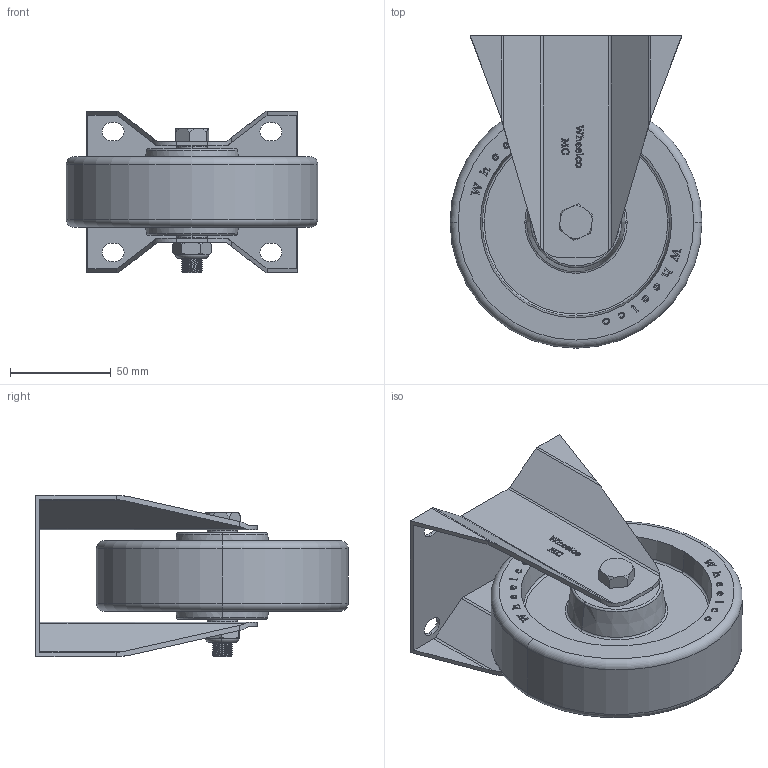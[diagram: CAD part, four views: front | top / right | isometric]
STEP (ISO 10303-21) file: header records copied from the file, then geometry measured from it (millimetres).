
FILE_DESCRIPTION (( 'STEP AP214' ), '1' );
FILE_NAME ('MCU125-F.step', '2023-11-29T20:28:37', ( '' ), ( '' ), 'SwSTEP 2.0', 'SolidWorks 2022', '' );
FILE_SCHEMA (( 'AUTOMOTIVE_DESIGN' ));
Length unit declared in the file: millimetre
Products named in the file (6): SP15-10-47; M10 Nyloc SS; M10X65 STAINLESS BOLT; MCU125-F; MC125-F; MCU125
Assembly tree (5 placements, depth 2):
  MCU125-F
    MC125-F
    M10 Nyloc SS
    M10X65 STAINLESS BOLT
    SP15-10-47
    MCU125
Bounding box: 125 x 155 x 80 mm (x, y, z)
Volume: 365172.9 mm3; surface area: 104396.1 mm2
Topology: 6 solids, 6 shells, 935 faces, 2544 edges, 1686 vertices
Faces by surface type: plane 481, bspline 265, cylinder 138, cone 29, torus 22
Entity records: 50201 total; most frequent: CARTESIAN_POINT 27203, ORIENTED_EDGE 5088, DIRECTION 3373, EDGE_CURVE 2544, VERTEX_POINT 1686, VECTOR 1589, LINE 1589, EDGE_LOOP 1018
